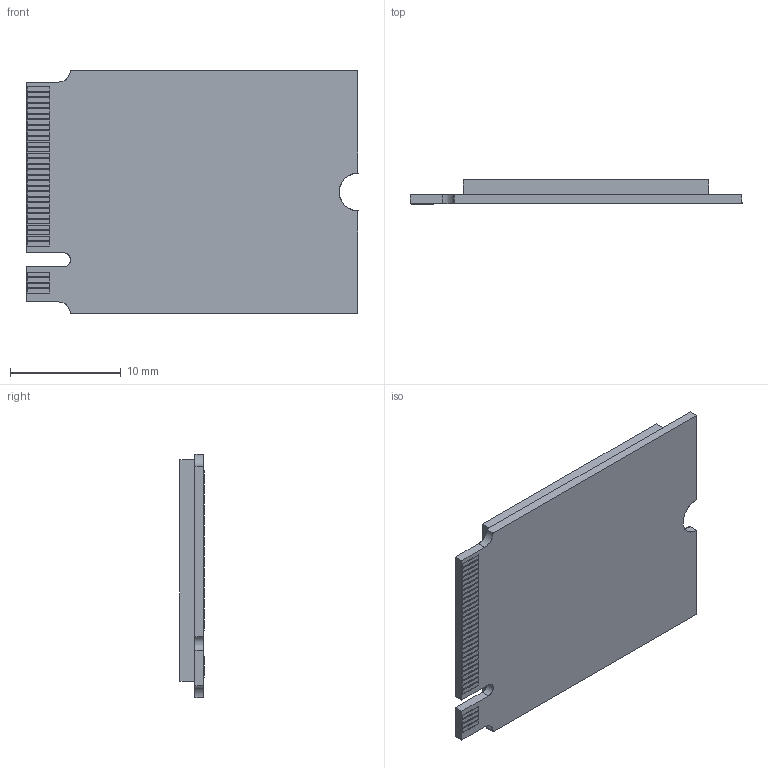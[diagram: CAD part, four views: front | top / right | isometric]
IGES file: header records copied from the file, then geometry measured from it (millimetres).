
Start section: SolidWorks IGES file using analytic representation for surfaces
Global section: file name: C:\Users\Rik Hermsen\Desktop\Desk- E-design\R_Pi_Projects\Raspberry_Pi5\Export\RPi_2230_SSD.IGS; native system: SolidWorks 2025; preprocessor: SolidWorks 2025; author: Rik Hermsen; date: 251130.170203; units: millimetre
Bounding box: 30 x 2.19 x 22 mm (x, y, z)
Surface area: 1622.9 mm2 (no closed solid volume)
Topology: 0 solids, 0 shells, 429 faces, 1872 edges, 1872 vertices
Faces by surface type: bspline 423, revolution 6
